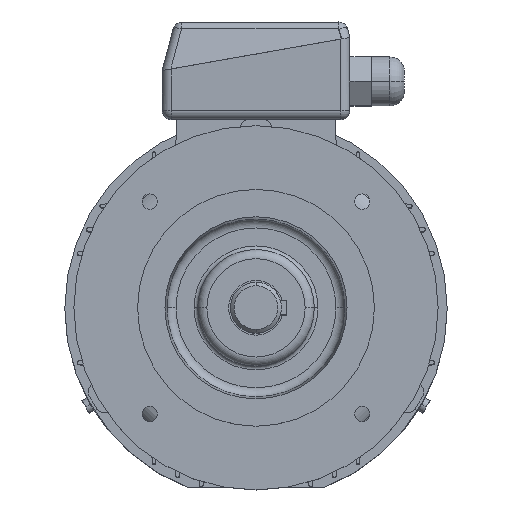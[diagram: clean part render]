
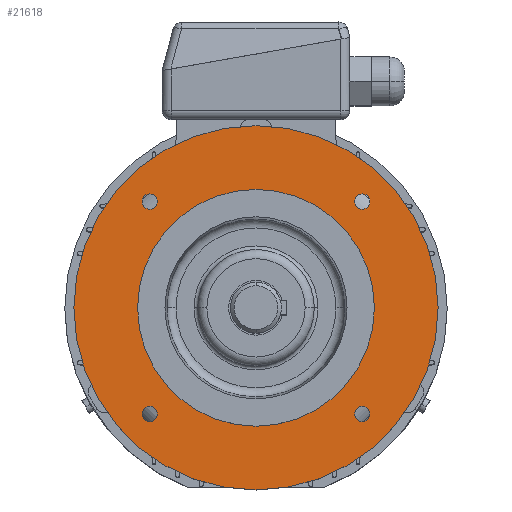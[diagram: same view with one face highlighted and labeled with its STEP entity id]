
A CAD part, top view. The second image highlights one B-rep face of the part: STEP entity #21618.
In plain terms, the highlighted planar face has unit normal (0, 0, 1).
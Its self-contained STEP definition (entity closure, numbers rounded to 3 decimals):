
#152 = CIRCLE ( 'NONE', #153, 4.2 ) ;
#153 = AXIS2_PLACEMENT_3D ( 'NONE', #154, #155, #156 ) ;
#154 = CARTESIAN_POINT ( 'NONE',  ( 58.336, 58.336, 45. ) ) ;
#155 = DIRECTION ( 'NONE',  ( 0., 0., 1. ) ) ;
#156 = DIRECTION ( 'NONE',  ( 1., 0., 0. ) ) ;
#246 = ORIENTED_EDGE ( 'NONE', *, *, #26131, .F. ) ;
#442 = CARTESIAN_POINT ( 'NONE',  ( -54.136, 58.336, 45. ) ) ;
#894 = EDGE_LOOP ( 'NONE', ( #246, #25472 ) ) ;
#1202 = ORIENTED_EDGE ( 'NONE', *, *, #21342, .F. ) ;
#17652 = CARTESIAN_POINT ( 'NONE',  ( -54.136, -58.336, 45. ) ) ;
#17840 = CIRCLE ( 'NONE', #17841, 4.2 ) ;
#17841 = AXIS2_PLACEMENT_3D ( 'NONE', #17842, #17843, #17844 ) ;
#17842 = CARTESIAN_POINT ( 'NONE',  ( 58.336, -58.336, 45. ) ) ;
#17843 = DIRECTION ( 'NONE',  ( 0., 0., 1. ) ) ;
#17844 = DIRECTION ( 'NONE',  ( 1., 0., 0. ) ) ;
#18141 = CARTESIAN_POINT ( 'NONE',  ( -62.536, -58.336, 45. ) ) ;
#1858 = EDGE_CURVE ( 'NONE', #2583, #3084, #14966, .T. ) ;
#2298 = ORIENTED_EDGE ( 'NONE', *, *, #1858, .F. ) ;
#18756 = CIRCLE ( 'NONE', #18757, 4.2 ) ;
#18757 = AXIS2_PLACEMENT_3D ( 'NONE', #18764, #18765, #18766 ) ;
#18764 = CARTESIAN_POINT ( 'NONE',  ( -58.336, 58.336, 45. ) ) ;
#18765 = DIRECTION ( 'NONE',  ( 0., 0., 1. ) ) ;
#18766 = DIRECTION ( 'NONE',  ( 1., 0., 0. ) ) ;
#2583 = VERTEX_POINT ( 'NONE', #17652 ) ;
#2612 = CARTESIAN_POINT ( 'NONE',  ( 62.536, -58.336, 45. ) ) ;
#19064 = EDGE_LOOP ( 'NONE', ( #3872, #3260 ) ) ;
#19163 = VERTEX_POINT ( 'NONE', #7694 ) ;
#2801 = CIRCLE ( 'NONE', #2802, 4.2 ) ;
#2802 = AXIS2_PLACEMENT_3D ( 'NONE', #2803, #2804, #2805 ) ;
#2803 = CARTESIAN_POINT ( 'NONE',  ( 58.336, -58.336, 45. ) ) ;
#2804 = DIRECTION ( 'NONE',  ( 0., 0., 1. ) ) ;
#2805 = DIRECTION ( 'NONE',  ( 1., 0., 0. ) ) ;
#2965 = EDGE_LOOP ( 'NONE', ( #2298, #1202 ) ) ;
#19371 = EDGE_CURVE ( 'NONE', #19163, #22264, #8060, .T. ) ;
#3084 = VERTEX_POINT ( 'NONE', #18141 ) ;
#3260 = ORIENTED_EDGE ( 'NONE', *, *, #23387, .F. ) ;
#3357 = EDGE_CURVE ( 'NONE', #21481, #9783, #18756, .T. ) ;
#19757 = VERTEX_POINT ( 'NONE', #8344 ) ;
#19780 = VERTEX_POINT ( 'NONE', #8352 ) ;
#19827 = ORIENTED_EDGE ( 'NONE', *, *, #19371, .T. ) ;
#19966 = EDGE_CURVE ( 'NONE', #19780, #23304, #8498, .T. ) ;
#20031 = EDGE_CURVE ( 'NONE', #25071, #19757, #8553, .T. ) ;
#3872 = ORIENTED_EDGE ( 'NONE', *, *, #19966, .F. ) ;
#20675 = ORIENTED_EDGE ( 'NONE', *, *, #22538, .T. ) ;
#4890 = CARTESIAN_POINT ( 'NONE',  ( 54.136, -58.336, 45. ) ) ;
#21319 = EDGE_LOOP ( 'NONE', ( #20675, #19827 ) ) ;
#21342 = EDGE_CURVE ( 'NONE', #3084, #2583, #9862, .T. ) ;
#21481 = VERTEX_POINT ( 'NONE', #10054 ) ;
#21618 = ADVANCED_FACE ( 'NONE', ( #10290, #10291, #10296, #10297, #10298, #10299 ), #10300, .T. ) ;
#22264 = VERTEX_POINT ( 'NONE', #11022 ) ;
#22538 = EDGE_CURVE ( 'NONE', #22264, #19163, #11288, .T. ) ;
#6665 = ORIENTED_EDGE ( 'NONE', *, *, #3357, .F. ) ;
#23304 = VERTEX_POINT ( 'NONE', #12366 ) ;
#23387 = EDGE_CURVE ( 'NONE', #23304, #19780, #12410, .T. ) ;
#7531 = EDGE_CURVE ( 'NONE', #9783, #21481, #24142, .T. ) ;
#7694 = CARTESIAN_POINT ( 'NONE',  ( 65., 0., 45. ) ) ;
#24142 = CIRCLE ( 'NONE', #24143, 4.2 ) ;
#24143 = AXIS2_PLACEMENT_3D ( 'NONE', #24144, #24154, #24155 ) ;
#24144 = CARTESIAN_POINT ( 'NONE',  ( -58.336, 58.336, 45. ) ) ;
#24154 = DIRECTION ( 'NONE',  ( 0., 0., 1. ) ) ;
#24155 = DIRECTION ( 'NONE',  ( 1., 0., 0. ) ) ;
#7986 = ORIENTED_EDGE ( 'NONE', *, *, #7531, .F. ) ;
#8060 = CIRCLE ( 'NONE', #8061, 65. ) ;
#8061 = AXIS2_PLACEMENT_3D ( 'NONE', #8062, #8063, #8064 ) ;
#8062 = CARTESIAN_POINT ( 'NONE',  ( 0., 0., 45. ) ) ;
#8063 = DIRECTION ( 'NONE',  ( 0., 0., -1. ) ) ;
#8064 = DIRECTION ( 'NONE',  ( -1., 0., 0. ) ) ;
#8344 = CARTESIAN_POINT ( 'NONE',  ( 62.536, 58.336, 45. ) ) ;
#8352 = CARTESIAN_POINT ( 'NONE',  ( -100., 0., 45. ) ) ;
#8498 = CIRCLE ( 'NONE', #8499, 100. ) ;
#8499 = AXIS2_PLACEMENT_3D ( 'NONE', #8500, #8501, #8502 ) ;
#8500 = CARTESIAN_POINT ( 'NONE',  ( 0., 0., 45. ) ) ;
#8501 = DIRECTION ( 'NONE',  ( 0., 0., -1. ) ) ;
#8502 = DIRECTION ( 'NONE',  ( -1., 0., 0. ) ) ;
#8553 = CIRCLE ( 'NONE', #8554, 4.2 ) ;
#8554 = AXIS2_PLACEMENT_3D ( 'NONE', #8555, #8556, #8557 ) ;
#8555 = CARTESIAN_POINT ( 'NONE',  ( 58.336, 58.336, 45. ) ) ;
#8556 = DIRECTION ( 'NONE',  ( 0., 0., 1. ) ) ;
#8557 = DIRECTION ( 'NONE',  ( 1., 0., 0. ) ) ;
#8623 = EDGE_LOOP ( 'NONE', ( #7986, #6665 ) ) ;
#25071 = VERTEX_POINT ( 'NONE', #15917 ) ;
#25161 = EDGE_LOOP ( 'NONE', ( #10001, #8931 ) ) ;
#8931 = ORIENTED_EDGE ( 'NONE', *, *, #20031, .F. ) ;
#25472 = ORIENTED_EDGE ( 'NONE', *, *, #12029, .F. ) ;
#9592 = EDGE_CURVE ( 'NONE', #19757, #25071, #152, .T. ) ;
#26131 = EDGE_CURVE ( 'NONE', #11845, #15229, #17840, .T. ) ;
#9783 = VERTEX_POINT ( 'NONE', #442 ) ;
#9862 = CIRCLE ( 'NONE', #9863, 4.2 ) ;
#9863 = AXIS2_PLACEMENT_3D ( 'NONE', #9864, #9865, #9866 ) ;
#9864 = CARTESIAN_POINT ( 'NONE',  ( -58.336, -58.336, 45. ) ) ;
#9865 = DIRECTION ( 'NONE',  ( 0., 0., 1. ) ) ;
#9866 = DIRECTION ( 'NONE',  ( 1., 0., 0. ) ) ;
#10001 = ORIENTED_EDGE ( 'NONE', *, *, #9592, .F. ) ;
#10054 = CARTESIAN_POINT ( 'NONE',  ( -62.536, 58.336, 45. ) ) ;
#10290 = FACE_BOUND ( 'NONE', #21319, .T. ) ;
#10291 = FACE_OUTER_BOUND ( 'NONE', #19064, .T. ) ;
#10296 = FACE_BOUND ( 'NONE', #2965, .T. ) ;
#10297 = FACE_BOUND ( 'NONE', #894, .T. ) ;
#10298 = FACE_BOUND ( 'NONE', #25161, .T. ) ;
#10299 = FACE_BOUND ( 'NONE', #8623, .T. ) ;
#10300 = PLANE ( 'NONE',  #10301 ) ;
#10301 = AXIS2_PLACEMENT_3D ( 'NONE', #10302, #10303, #10304 ) ;
#10302 = CARTESIAN_POINT ( 'NONE',  ( -100., 0., 45. ) ) ;
#10303 = DIRECTION ( 'NONE',  ( 0., 0., 1. ) ) ;
#10304 = DIRECTION ( 'NONE',  ( 1., 0., 0. ) ) ;
#11022 = CARTESIAN_POINT ( 'NONE',  ( -65., 0., 45. ) ) ;
#11288 = CIRCLE ( 'NONE', #11289, 65. ) ;
#11289 = AXIS2_PLACEMENT_3D ( 'NONE', #11290, #11291, #11292 ) ;
#11290 = CARTESIAN_POINT ( 'NONE',  ( 0., 0., 45. ) ) ;
#11291 = DIRECTION ( 'NONE',  ( 0., 0., -1. ) ) ;
#11292 = DIRECTION ( 'NONE',  ( -1., 0., 0. ) ) ;
#11845 = VERTEX_POINT ( 'NONE', #2612 ) ;
#12029 = EDGE_CURVE ( 'NONE', #15229, #11845, #2801, .T. ) ;
#12366 = CARTESIAN_POINT ( 'NONE',  ( 100., 0., 45. ) ) ;
#12410 = CIRCLE ( 'NONE', #12411, 100. ) ;
#12411 = AXIS2_PLACEMENT_3D ( 'NONE', #12412, #12438, #12439 ) ;
#12412 = CARTESIAN_POINT ( 'NONE',  ( 0., 0., 45. ) ) ;
#12438 = DIRECTION ( 'NONE',  ( 0., 0., -1. ) ) ;
#12439 = DIRECTION ( 'NONE',  ( -1., 0., 0. ) ) ;
#14966 = CIRCLE ( 'NONE', #14967, 4.2 ) ;
#14967 = AXIS2_PLACEMENT_3D ( 'NONE', #14990, #14991, #14992 ) ;
#14990 = CARTESIAN_POINT ( 'NONE',  ( -58.336, -58.336, 45. ) ) ;
#14991 = DIRECTION ( 'NONE',  ( 0., 0., 1. ) ) ;
#14992 = DIRECTION ( 'NONE',  ( 1., 0., 0. ) ) ;
#15229 = VERTEX_POINT ( 'NONE', #4890 ) ;
#15917 = CARTESIAN_POINT ( 'NONE',  ( 54.136, 58.336, 45. ) ) ;
